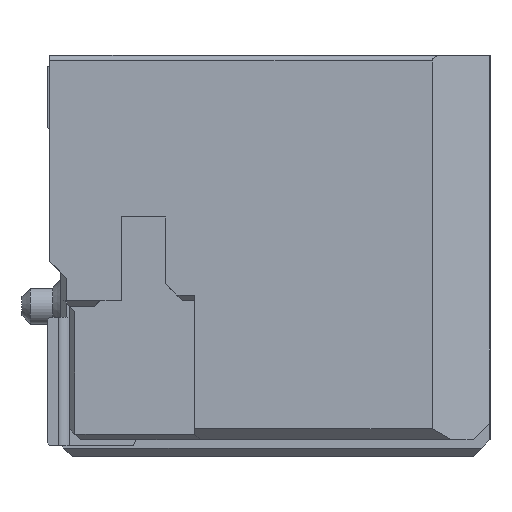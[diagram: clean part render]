
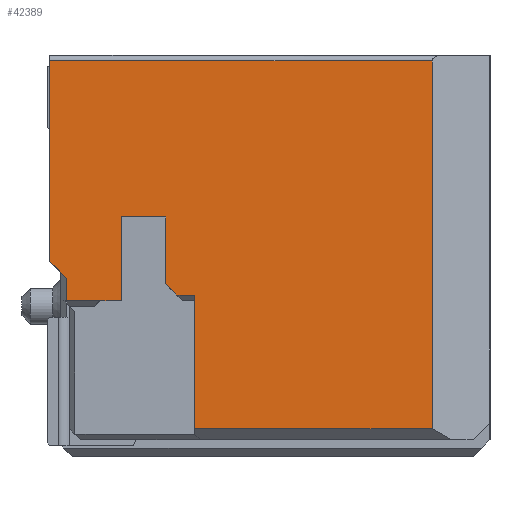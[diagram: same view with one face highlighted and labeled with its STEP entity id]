
A CAD part, front view. The second image highlights one B-rep face of the part: STEP entity #42389.
In plain terms, the highlighted planar face has unit normal (0, -1, 0).
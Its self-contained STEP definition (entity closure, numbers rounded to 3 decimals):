
#560 = CARTESIAN_POINT ( 'NONE',  ( -3.17, -10.4, 4.6 ) ) ;
#1114 = VECTOR ( 'NONE', #28392, 1000. ) ;
#1482 = PLANE ( 'NONE',  #45482 ) ;
#1829 = VERTEX_POINT ( 'NONE', #8416 ) ;
#2079 = ORIENTED_EDGE ( 'NONE', *, *, #27961, .F. ) ;
#2723 = EDGE_CURVE ( 'NONE', #35379, #44545, #38667, .T. ) ;
#2809 = CARTESIAN_POINT ( 'NONE',  ( -3.97, -10.4, 3.1 ) ) ;
#3121 = ORIENTED_EDGE ( 'NONE', *, *, #20254, .F. ) ;
#3615 = LINE ( 'NONE', #28001, #42301 ) ;
#4327 = VERTEX_POINT ( 'NONE', #35154 ) ;
#4601 = EDGE_CURVE ( 'NONE', #42977, #22763, #33613, .T. ) ;
#5185 = EDGE_CURVE ( 'NONE', #35379, #46382, #3615, .T. ) ;
#7932 = VECTOR ( 'NONE', #28907, 1000. ) ;
#8334 = VECTOR ( 'NONE', #34160, 1000. ) ;
#8416 = CARTESIAN_POINT ( 'NONE',  ( -2.65, -10.4, 0.8 ) ) ;
#8638 = CARTESIAN_POINT ( 'NONE',  ( -2.65, -10.4, 3.2 ) ) ;
#8665 = LINE ( 'NONE', #48282, #16343 ) ;
#8876 = ORIENTED_EDGE ( 'NONE', *, *, #5185, .T. ) ;
#9816 = VECTOR ( 'NONE', #22353, 1000. ) ;
#10087 = EDGE_CURVE ( 'NONE', #16704, #23050, #30198, .T. ) ;
#11243 = EDGE_CURVE ( 'NONE', #28431, #46382, #46409, .T. ) ;
#11486 = DIRECTION ( 'NONE',  ( 0., 0., 1. ) ) ;
#11925 = VECTOR ( 'NONE', #34985, 1000. ) ;
#13228 = VECTOR ( 'NONE', #23304, 1000. ) ;
#13830 = EDGE_CURVE ( 'NONE', #24095, #42977, #29710, .T. ) ;
#15320 = ORIENTED_EDGE ( 'NONE', *, *, #11243, .F. ) ;
#16343 = VECTOR ( 'NONE', #43282, 1000. ) ;
#16551 = CARTESIAN_POINT ( 'NONE',  ( -2.65, -10.4, 7.5 ) ) ;
#16641 = VECTOR ( 'NONE', #19901, 1000. ) ;
#16704 = VERTEX_POINT ( 'NONE', #20543 ) ;
#17991 = VERTEX_POINT ( 'NONE', #560 ) ;
#18217 = ORIENTED_EDGE ( 'NONE', *, *, #29491, .F. ) ;
#19070 = CARTESIAN_POINT ( 'NONE',  ( -4.95, -10.4, 3.1 ) ) ;
#19440 = DIRECTION ( 'NONE',  ( -1., 0., 0. ) ) ;
#19901 = DIRECTION ( 'NONE',  ( 0., 0., 1. ) ) ;
#20254 = EDGE_CURVE ( 'NONE', #44545, #21493, #44370, .T. ) ;
#20543 = CARTESIAN_POINT ( 'NONE',  ( 1.611, -10.4, 0.8 ) ) ;
#20700 = VECTOR ( 'NONE', #19440, 1000. ) ;
#20719 = EDGE_CURVE ( 'NONE', #17991, #4327, #45182, .T. ) ;
#21178 = DIRECTION ( 'NONE',  ( 0., 0., -1. ) ) ;
#21493 = VERTEX_POINT ( 'NONE', #49746 ) ;
#21663 = LINE ( 'NONE', #16551, #45596 ) ;
#22041 = EDGE_CURVE ( 'NONE', #16704, #1829, #37795, .T. ) ;
#22353 = DIRECTION ( 'NONE',  ( -1., 0., 0. ) ) ;
#22499 = VECTOR ( 'NONE', #36252, 1000. ) ;
#22763 = VERTEX_POINT ( 'NONE', #39403 ) ;
#22854 = DIRECTION ( 'NONE',  ( 0., 0., -1. ) ) ;
#23050 = VERTEX_POINT ( 'NONE', #24460 ) ;
#23304 = DIRECTION ( 'NONE',  ( -0.707, 0., 0.707 ) ) ;
#23511 = CARTESIAN_POINT ( 'NONE',  ( -5.25, -10.4, 3.8 ) ) ;
#24095 = VERTEX_POINT ( 'NONE', #8638 ) ;
#24460 = CARTESIAN_POINT ( 'NONE',  ( 1.611, -10.4, 7.4 ) ) ;
#24534 = CARTESIAN_POINT ( 'NONE',  ( 5.25, -10.4, 3.2 ) ) ;
#25010 = CARTESIAN_POINT ( 'NONE',  ( 1.611, -10.4, 7.5 ) ) ;
#26319 = CARTESIAN_POINT ( 'NONE',  ( -3.97, -10.4, 7.5 ) ) ;
#27511 = CARTESIAN_POINT ( 'NONE',  ( 5.25, -10.4, 0.8 ) ) ;
#27961 = EDGE_CURVE ( 'NONE', #22763, #17991, #8665, .T. ) ;
#28001 = CARTESIAN_POINT ( 'NONE',  ( -4.95, -10.4, 3.5 ) ) ;
#28392 = DIRECTION ( 'NONE',  ( -0.707, 0., 0.707 ) ) ;
#28431 = VERTEX_POINT ( 'NONE', #2809 ) ;
#28460 = CARTESIAN_POINT ( 'NONE',  ( -2.97, -10.4, 3.2 ) ) ;
#28907 = DIRECTION ( 'NONE',  ( 1., 0., 0. ) ) ;
#29190 = ORIENTED_EDGE ( 'NONE', *, *, #13830, .F. ) ;
#29491 = EDGE_CURVE ( 'NONE', #21493, #23050, #39161, .T. ) ;
#29710 = LINE ( 'NONE', #24534, #20700 ) ;
#30198 = LINE ( 'NONE', #25010, #16641 ) ;
#30948 = CARTESIAN_POINT ( 'NONE',  ( -2.97, -10.4, 3.2 ) ) ;
#31523 = LINE ( 'NONE', #26319, #31642 ) ;
#31642 = VECTOR ( 'NONE', #21178, 1000. ) ;
#33141 = CARTESIAN_POINT ( 'NONE',  ( -4.95, -10.4, 3.5 ) ) ;
#33154 = ORIENTED_EDGE ( 'NONE', *, *, #22041, .F. ) ;
#33525 = EDGE_LOOP ( 'NONE', ( #29190, #38770, #33154, #35053, #18217, #3121, #41808, #8876, #15320, #47437, #37388, #2079, #39692 ) ) ;
#33548 = CARTESIAN_POINT ( 'NONE',  ( -4.95, -10.4, 3.5 ) ) ;
#33613 = LINE ( 'NONE', #28460, #13228 ) ;
#34063 = CARTESIAN_POINT ( 'NONE',  ( 5.25, -10.4, 7.4 ) ) ;
#34160 = DIRECTION ( 'NONE',  ( 0., 0., 1. ) ) ;
#34985 = DIRECTION ( 'NONE',  ( -1., 0., 0. ) ) ;
#35053 = ORIENTED_EDGE ( 'NONE', *, *, #10087, .T. ) ;
#35154 = CARTESIAN_POINT ( 'NONE',  ( -3.97, -10.4, 4.6 ) ) ;
#35379 = VERTEX_POINT ( 'NONE', #33141 ) ;
#36153 = DIRECTION ( 'NONE',  ( 0., 0., 1. ) ) ;
#36252 = DIRECTION ( 'NONE',  ( -1., 0., 0. ) ) ;
#37388 = ORIENTED_EDGE ( 'NONE', *, *, #20719, .F. ) ;
#37795 = LINE ( 'NONE', #27511, #9816 ) ;
#38667 = LINE ( 'NONE', #33548, #1114 ) ;
#38770 = ORIENTED_EDGE ( 'NONE', *, *, #45271, .F. ) ;
#39161 = LINE ( 'NONE', #34063, #7932 ) ;
#39257 = CARTESIAN_POINT ( 'NONE',  ( -5.25, -10.4, 7.5 ) ) ;
#39403 = CARTESIAN_POINT ( 'NONE',  ( -3.17, -10.4, 3.4 ) ) ;
#39692 = ORIENTED_EDGE ( 'NONE', *, *, #4601, .F. ) ;
#40051 = CARTESIAN_POINT ( 'NONE',  ( 5.25, -10.4, 4.6 ) ) ;
#41243 = DIRECTION ( 'NONE',  ( 0., 1., 0. ) ) ;
#41338 = CARTESIAN_POINT ( 'NONE',  ( 5.25, -10.4, 3.1 ) ) ;
#41808 = ORIENTED_EDGE ( 'NONE', *, *, #2723, .F. ) ;
#42301 = VECTOR ( 'NONE', #22854, 1000. ) ;
#42389 = ADVANCED_FACE ( 'NONE', ( #42899 ), #1482, .F. ) ;
#42899 = FACE_OUTER_BOUND ( 'NONE', #33525, .T. ) ;
#42977 = VERTEX_POINT ( 'NONE', #30948 ) ;
#43282 = DIRECTION ( 'NONE',  ( 0., 0., 1. ) ) ;
#44370 = LINE ( 'NONE', #39257, #8334 ) ;
#44545 = VERTEX_POINT ( 'NONE', #23511 ) ;
#45182 = LINE ( 'NONE', #40051, #11925 ) ;
#45271 = EDGE_CURVE ( 'NONE', #1829, #24095, #21663, .T. ) ;
#45482 = AXIS2_PLACEMENT_3D ( 'NONE', #46334, #41243, #36153 ) ;
#45596 = VECTOR ( 'NONE', #11486, 1000. ) ;
#46334 = CARTESIAN_POINT ( 'NONE',  ( 5.25, -10.4, 7.5 ) ) ;
#46382 = VERTEX_POINT ( 'NONE', #19070 ) ;
#46409 = LINE ( 'NONE', #41338, #22499 ) ;
#47437 = ORIENTED_EDGE ( 'NONE', *, *, #47501, .F. ) ;
#47501 = EDGE_CURVE ( 'NONE', #4327, #28431, #31523, .T. ) ;
#48282 = CARTESIAN_POINT ( 'NONE',  ( -3.17, -10.4, 7.5 ) ) ;
#49746 = CARTESIAN_POINT ( 'NONE',  ( -5.25, -10.4, 7.4 ) ) ;
